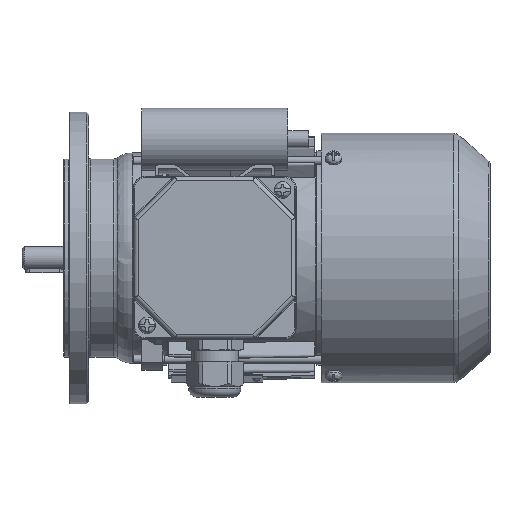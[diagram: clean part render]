
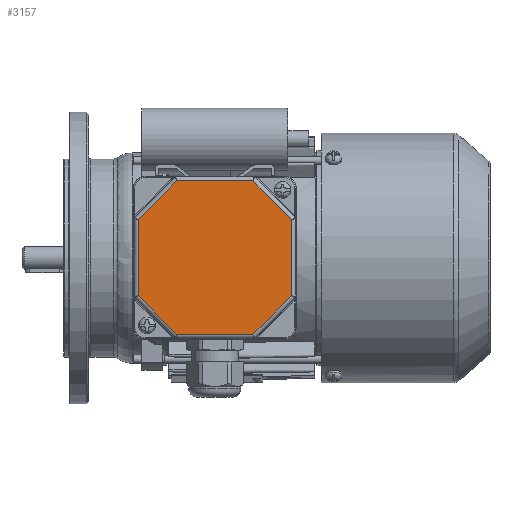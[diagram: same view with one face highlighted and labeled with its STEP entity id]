
A CAD part, top view. The second image highlights one B-rep face of the part: STEP entity #3157.
In plain terms, the highlighted planar face has unit normal (0, 0, 1).
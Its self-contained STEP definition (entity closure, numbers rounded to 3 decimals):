
#3157 = ADVANCED_FACE( '', ( #6865 ), #6866, .T. );
#6865 = FACE_OUTER_BOUND( '', #14291, .T. );
#6866 = PLANE( '', #14292 );
#14291 = EDGE_LOOP( '', ( #28558, #28559, #28560, #28561, #28562, #28563, #28564, #28565 ) );
#14292 = AXIS2_PLACEMENT_3D( '', #28566, #28567, #28568 );
#28558 = ORIENTED_EDGE( '', *, *, #40974, .T. );
#28559 = ORIENTED_EDGE( '', *, *, #40975, .T. );
#28560 = ORIENTED_EDGE( '', *, *, #40976, .T. );
#28561 = ORIENTED_EDGE( '', *, *, #40977, .T. );
#28562 = ORIENTED_EDGE( '', *, *, #40978, .T. );
#28563 = ORIENTED_EDGE( '', *, *, #40979, .T. );
#28564 = ORIENTED_EDGE( '', *, *, #40980, .T. );
#28565 = ORIENTED_EDGE( '', *, *, #40981, .T. );
#28566 = CARTESIAN_POINT( '', ( -39., 39., 12. ) );
#28567 = DIRECTION( '', ( 0., 0., 1. ) );
#28568 = DIRECTION( '', ( 1., 0., 0. ) );
#40974 = EDGE_CURVE( '', #46240, #50079, #50080, .F. );
#40975 = EDGE_CURVE( '', #50079, #50081, #50082, .T. );
#40976 = EDGE_CURVE( '', #50081, #50083, #50084, .F. );
#40977 = EDGE_CURVE( '', #50083, #50085, #50086, .T. );
#40978 = EDGE_CURVE( '', #50085, #47320, #50087, .F. );
#40979 = EDGE_CURVE( '', #47320, #50088, #50089, .T. );
#40980 = EDGE_CURVE( '', #50088, #50090, #50091, .F. );
#40981 = EDGE_CURVE( '', #50090, #46240, #50092, .T. );
#46240 = VERTEX_POINT( '', #54917 );
#47320 = VERTEX_POINT( '', #57176 );
#50079 = VERTEX_POINT( '', #63480 );
#50080 = LINE( '', #63481, #63482 );
#50081 = VERTEX_POINT( '', #63483 );
#50082 = LINE( '', #63484, #63485 );
#50083 = VERTEX_POINT( '', #63486 );
#50084 = LINE( '', #63487, #63488 );
#50085 = VERTEX_POINT( '', #63489 );
#50086 = LINE( '', #63490, #63491 );
#50087 = LINE( '', #63492, #63493 );
#50088 = VERTEX_POINT( '', #63494 );
#50089 = LINE( '', #63495, #63496 );
#50090 = VERTEX_POINT( '', #63497 );
#50091 = LINE( '', #63498, #63499 );
#50092 = LINE( '', #63500, #63501 );
#54917 = CARTESIAN_POINT( '', ( 36.825, -18.255, 12. ) );
#57176 = CARTESIAN_POINT( '', ( -36.825, -18.255, 12. ) );
#63480 = CARTESIAN_POINT( '', ( 36.825, 18.255, 12. ) );
#63481 = CARTESIAN_POINT( '', ( 36.825, 19.069, 12. ) );
#63482 = VECTOR( '', #75690, 1000. );
#63483 = CARTESIAN_POINT( '', ( 18.255, 36.825, 12. ) );
#63484 = CARTESIAN_POINT( '', ( 17.679, 37.401, 12. ) );
#63485 = VECTOR( '', #75691, 1000. );
#63486 = CARTESIAN_POINT( '', ( -18.255, 36.825, 12. ) );
#63487 = CARTESIAN_POINT( '', ( -19.069, 36.825, 12. ) );
#63488 = VECTOR( '', #75692, 1000. );
#63489 = CARTESIAN_POINT( '', ( -36.825, 18.255, 12. ) );
#63490 = CARTESIAN_POINT( '', ( -37.401, 17.679, 12. ) );
#63491 = VECTOR( '', #75693, 1000. );
#63492 = CARTESIAN_POINT( '', ( -36.825, -19.069, 12. ) );
#63493 = VECTOR( '', #75694, 1000. );
#63494 = CARTESIAN_POINT( '', ( -18.255, -36.825, 12. ) );
#63495 = CARTESIAN_POINT( '', ( -17.679, -37.401, 12. ) );
#63496 = VECTOR( '', #75695, 1000. );
#63497 = CARTESIAN_POINT( '', ( 18.255, -36.825, 12. ) );
#63498 = CARTESIAN_POINT( '', ( 19.069, -36.825, 12. ) );
#63499 = VECTOR( '', #75696, 1000. );
#63500 = CARTESIAN_POINT( '', ( 37.401, -17.679, 12. ) );
#63501 = VECTOR( '', #75697, 1000. );
#75690 = DIRECTION( '', ( 0., -1., 0. ) );
#75691 = DIRECTION( '', ( -0.707, 0.707, 0. ) );
#75692 = DIRECTION( '', ( 1., 0., 0. ) );
#75693 = DIRECTION( '', ( -0.707, -0.707, 0. ) );
#75694 = DIRECTION( '', ( 0., 1., 0. ) );
#75695 = DIRECTION( '', ( 0.707, -0.707, 0. ) );
#75696 = DIRECTION( '', ( -1., 0., 0. ) );
#75697 = DIRECTION( '', ( 0.707, 0.707, 0. ) );
